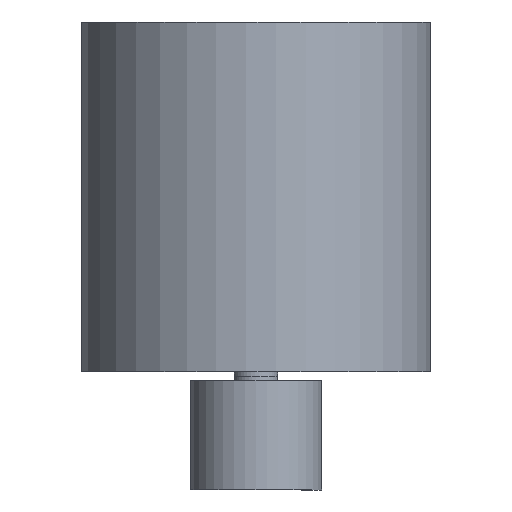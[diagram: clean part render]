
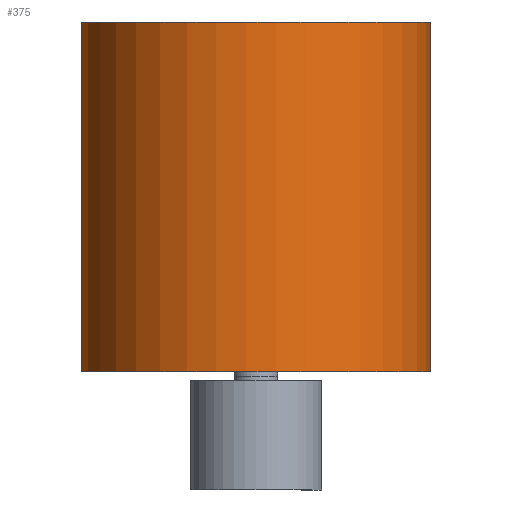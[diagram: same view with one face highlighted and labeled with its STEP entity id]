
A CAD part, left-side view. The second image highlights one B-rep face of the part: STEP entity #375.
In plain terms, the highlighted cylindrical face has radius 40 mm (diameter 80 mm), a full revolution.
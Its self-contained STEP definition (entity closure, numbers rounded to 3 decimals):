
#85=FACE_BOUND('',#159,.T.);
#113=FACE_OUTER_BOUND('',#158,.T.);
#158=EDGE_LOOP('',(#306));
#159=EDGE_LOOP('',(#307));
#181=CIRCLE('',#474,40.);
#183=CIRCLE('',#478,40.);
#209=VERTEX_POINT('',#692);
#211=VERTEX_POINT('',#698);
#241=EDGE_CURVE('',#209,#209,#181,.T.);
#243=EDGE_CURVE('',#211,#211,#183,.T.);
#306=ORIENTED_EDGE('',*,*,#243,.T.);
#307=ORIENTED_EDGE('',*,*,#241,.F.);
#317=CYLINDRICAL_SURFACE('',#479,40.);
#375=ADVANCED_FACE('',(#113,#85),#317,.T.);
#474=AXIS2_PLACEMENT_3D('',#693,#590,#591);
#478=AXIS2_PLACEMENT_3D('',#699,#598,#599);
#479=AXIS2_PLACEMENT_3D('',#700,#600,#601);
#590=DIRECTION('center_axis',(-1.,0.,0.));
#591=DIRECTION('ref_axis',(0.,0.,1.));
#598=DIRECTION('center_axis',(-1.,0.,0.));
#599=DIRECTION('ref_axis',(0.,0.,1.));
#600=DIRECTION('center_axis',(-1.,0.,0.));
#601=DIRECTION('ref_axis',(0.,0.,1.));
#692=CARTESIAN_POINT('',(-80.,0.,40.));
#693=CARTESIAN_POINT('Origin',(-80.,0.,0.));
#698=CARTESIAN_POINT('',(0.,0.,40.));
#699=CARTESIAN_POINT('Origin',(0.,0.,0.));
#700=CARTESIAN_POINT('Origin',(-40.,0.,0.));
